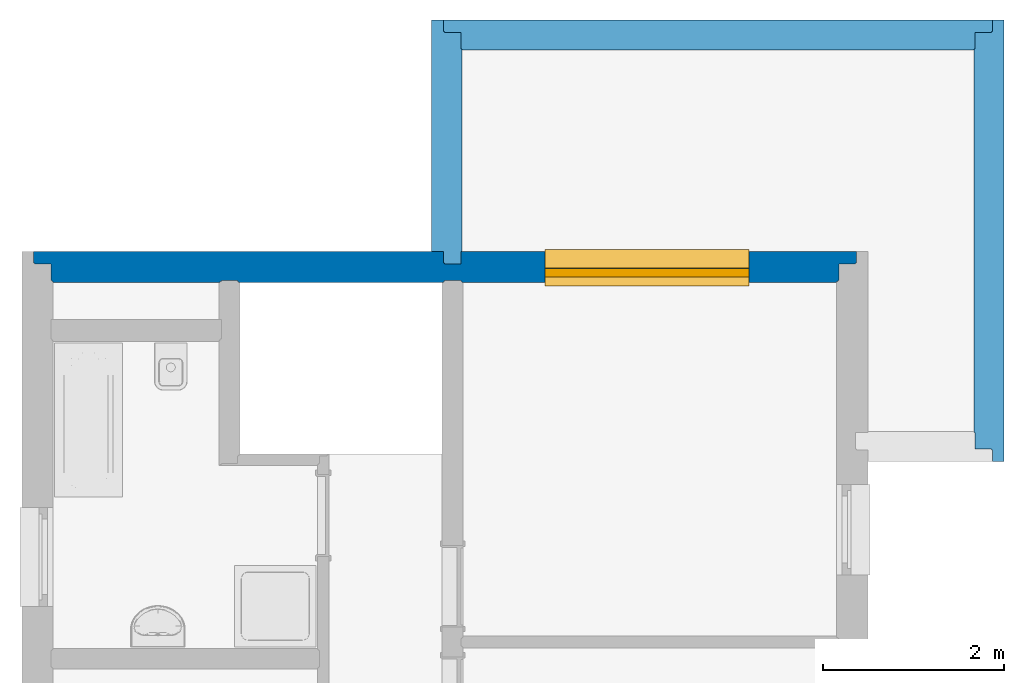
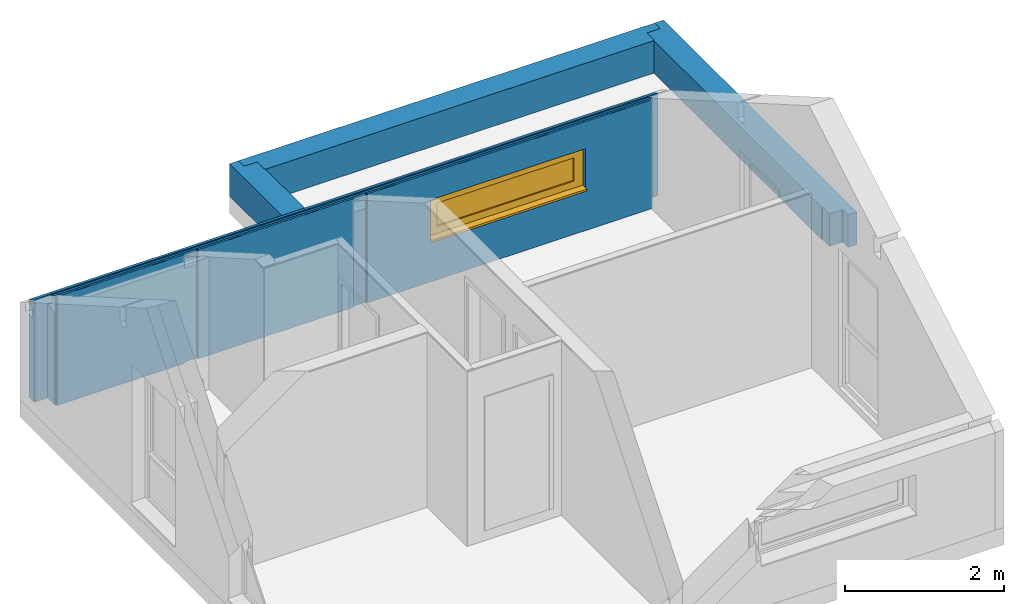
# One storey, part 7 of 7: 4 walls, 1 window, 1 opening.
"""IFC2X3 building model written with IfcOpenShell, lengths in millimetres."""

from ifc_helpers import new_model, entity, si_unit, converted_unit, derived_unit, money_unit, direction, frame, origin_with_axes, place, context, subcontext, project, spatial, open_shell, faceted_brep, surface_model, material, material_list, type_object, element, fill, save


model = new_model("IFC2X3")

# Units and contexts
model_context = context("Model", 3, precision=0.01, world=origin_with_axes(), true_north=direction((0.0, 1.0)))
body_context = subcontext(model_context, "Body", "Model", "MODEL_VIEW")
ifc_project = project(units=[si_unit("LENGTHUNIT", "METRE", prefix="MILLI"), si_unit("AREAUNIT", "SQUARE_METRE"), si_unit("VOLUMEUNIT", "CUBIC_METRE"), converted_unit("PLANEANGLEUNIT", "DEGREE", entity("IfcPlaneAngleMeasure", 0.0174532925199), si_unit("PLANEANGLEUNIT", "RADIAN"), dimensions=[0, 0, 0, 0, 0, 0, 0]), si_unit("SOLIDANGLEUNIT", "STERADIAN"), money_unit("USD"), converted_unit("TIMEUNIT", "Year", entity("IfcTimeMeasure", 31556926.0), si_unit("TIMEUNIT", "SECOND"), dimensions=[0, 0, 1, 0, 0, 0, 0]), si_unit("MASSUNIT", "GRAM", prefix="KILO"), si_unit("THERMODYNAMICTEMPERATUREUNIT", "DEGREE_CELSIUS"), si_unit("LUMINOUSINTENSITYUNIT", "LUMEN"), si_unit("ENERGYUNIT", "JOULE", prefix="MEGA"), derived_unit("THERMALCONDUCTANCEUNIT", [(si_unit("POWERUNIT", "WATT"), 1), (si_unit("LENGTHUNIT", "METRE"), -1), (si_unit("THERMODYNAMICTEMPERATUREUNIT", "KELVIN"), -1)]), derived_unit("SPECIFICHEATCAPACITYUNIT", [(si_unit("ENERGYUNIT", "JOULE"), 1), (si_unit("MASSUNIT", "GRAM", prefix="KILO"), -1), (si_unit("THERMODYNAMICTEMPERATUREUNIT", "KELVIN"), -1)]), derived_unit("MASSDENSITYUNIT", [(si_unit("MASSUNIT", "GRAM", prefix="KILO"), 1), (si_unit("VOLUMEUNIT", "CUBIC_METRE"), -1)])], contexts=[model_context])

# Site, building, storey
site_placement = place(None, origin_with_axes())
site = spatial("IfcSite", under=ifc_project, at=site_placement, Name="Lokalizacja", CompositionType="ELEMENT")
building_placement = place(site_placement, origin_with_axes())
building = spatial("IfcBuilding", under=site, at=building_placement, Name="Budynek", CompositionType="ELEMENT")
storey_placement = place(building_placement, frame((0.0, 0.0, 2954.0), z_axis=(0.0, 0.0, 1.0), x_axis=(1.0, 0.0, 0.0)))
storey = spatial("IfcBuildingStorey", under=building, at=storey_placement, Name="DG", CompositionType="ELEMENT", Elevation=2954.0)

# Wall, opening, window
ifc_material_1 = material(Name="Płyty styropianowe miękkie")
ifc_material_2 = material(Name="Płyta OSB")
ifc_material_3 = material(Name="Drewno konstrukcyjne")
ifc_material_4 = material(Name="Płyta GK")
ifc_material_list_1 = material_list([ifc_material_1, ifc_material_2, ifc_material_3, ifc_material_2, ifc_material_4])
wall_type_1 = type_object("IfcWallType", Name="002- _dan_SZ_345 345", PredefinedType="NOTDEFINED")
wall_1_placement = place(storey_placement, frame((1.15826387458e-07, 1.16706644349e-09, -160.0), z_axis=(0.0, 0.0, 1.0), x_axis=(1.0, 0.0, 0.0)))
wall_1 = element("IfcWall", 1, at=wall_1_placement, inside=storey, type_object=wall_type_1, material=ifc_material_list_1, Name="SZ2", context=body_context, shape_type="Brep", body=[
    faceted_brep([(-217.0, 345.0, 1500.0739758), (8857.00006096, 345.0, 1500.0739758), (8857.00006096, 345.0, 0.0), (4495.00027387, 345.0, 0.0), (4495.00027387, 345.0, 500.0), (4303.00027387, 345.0, 500.0), (4303.00027387, 345.0, 0.0), (-217.0, 345.0, 0.0), (8857.00006096, 217.0, 1573.97481026), (-217.0, 217.0, 1573.97481026), (8857.00006096, 217.0, 0.0), (4495.00027387, 217.0, 0.0), (4495.00027387, 217.0, 500.0), (4303.00027387, 217.0, 500.0), (4303.00027387, 217.0, 0.0), (-217.0, 217.0, 0.0)], [[[0, 1, 2, 3, 4, 5, 6, 7]], [[8, 1, 0, 9]], [[1, 8, 10, 2]], [[10, 11, 3, 2]], [[12, 4, 3, 11]], [[4, 12, 13, 5]], [[14, 6, 5, 13]], [[7, 6, 14, 15]], [[9, 0, 7, 15]], [[8, 9, 15, 14, 13, 12, 11, 10]]]),
    faceted_brep([(-205.0, 217.0, 1573.97481026), (8845.00006096, 217.0, 1573.97481026), (8845.00006096, 217.0, 0.0), (4495.00027387, 217.0, 0.0), (4495.00027387, 217.0, 500.0), (4315.00027387, 217.0, 500.0), (4315.00027387, 217.0, 0.0), (-205.0, 217.0, 0.0), (8845.00006096, 205.0, 1580.90301349), (-205.0, 205.0, 1580.90301349), (8845.00006096, 205.0, 0.0), (4495.00027387, 205.0, 0.0), (4495.00027387, 205.0, 500.0), (4315.00027387, 205.0, 500.0), (4315.00027387, 205.0, 0.0), (-205.0, 205.0, 0.0)], [[[0, 1, 2, 3, 4, 5, 6, 7]], [[8, 1, 0, 9]], [[1, 8, 10, 2]], [[2, 10, 11, 3]], [[11, 12, 4, 3]], [[12, 13, 5, 4]], [[13, 14, 6, 5]], [[15, 7, 6, 14]], [[9, 0, 7, 15]], [[8, 9, 15, 14, 13, 12, 11, 10]]]),
    faceted_brep([(-25.0, 205.0, 0.0), (-25.0, 205.0, 1441.31753233), (8665.00006096, 205.0, 1441.31753233), (8665.00006096, 205.0, 0.0), (-25.0, 25.0, 0.0), (-25.0, 25.0, 1441.31753233), (8665.00006096, 25.0, 1441.31753233), (8665.00006096, 25.0, 0.0)], [[[0, 1, 2, 3]], [[4, 5, 1, 0]], [[5, 6, 2, 1]], [[3, 2, 6, 7]], [[0, 3, 7, 4]], [[7, 6, 5, 4]]]),
    faceted_brep([(-25.0, 135.000000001, 1621.31753233), (8665.00006096, 135.000000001, 1621.31753233), (8665.00006096, 25.0, 1621.31753233), (-25.0, 25.0, 1621.31753233), (8665.00006096, 25.0, 1684.82606195), (-25.0, 25.0, 1684.82606195)], [[[0, 1, 2, 3]], [[4, 1, 0, 5]], [[1, 4, 2]], [[4, 5, 3, 2]], [[5, 0, 3]]]),
    faceted_brep([(4494.99999989, 25.0, 1684.82606195), (8653.00006096, 25.0, 1684.82606195), (8653.00006096, 25.0, 0.0), (4494.99999989, 25.0, 0.0), (8653.00006096, 13.0, 1691.75426518), (4494.99999989, 13.0, 1691.75426518), (8653.00006096, 13.0, 0.0), (4494.99999989, 13.0, 0.0)], [[[0, 1, 2, 3]], [[4, 1, 0, 5]], [[1, 4, 6, 2]], [[3, 2, 6, 7]], [[5, 0, 3, 7]], [[4, 5, 7, 6]]]),
    faceted_brep([(2034.99999989, 25.0, 1684.82606195), (4314.99999989, 25.0, 1684.82606195), (4314.99999989, 25.0, 0.0), (2034.99999989, 25.0, 0.0), (4314.99999989, 13.0, 1691.75426518), (2034.99999989, 13.0, 1691.75426518), (4314.99999989, 13.0, 0.0), (2034.99999989, 13.0, 0.0)], [[[0, 1, 2, 3]], [[4, 1, 0, 5]], [[1, 4, 6, 2]], [[3, 2, 6, 7]], [[5, 0, 3, 7]], [[4, 5, 7, 6]]]),
    faceted_brep([(-13.0, 25.0, 1684.82606195), (1854.99999989, 25.0, 1684.82606195), (1854.99999989, 25.0, 0.0), (-13.0, 25.0, 0.0), (1854.99999989, 13.0, 1691.75426518), (-13.0, 13.0, 1691.75426518), (1854.99999989, 13.0, 0.0), (-13.0, 13.0, 0.0)], [[[0, 1, 2, 3]], [[4, 1, 0, 5]], [[1, 4, 6, 2]], [[3, 2, 6, 7]], [[5, 0, 3, 7]], [[4, 5, 7, 6]]]),
    faceted_brep([(4506.99999989, 13.0, 1666.35085333), (8640.00006096, 13.0, 1666.35085333), (8640.00006096, 13.0, 0.0), (4506.99999989, 13.0, 0.0), (8640.00006096, -3.00448554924e-09, 1673.85640683), (4506.99999989, -3.00555732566e-09, 1673.85640683), (8640.00006096, 0.0, 0.0), (4506.99999989, 0.0, 0.0)], [[[0, 1, 2, 3]], [[4, 1, 0, 5]], [[1, 4, 6, 2]], [[2, 6, 7, 3]], [[5, 0, 3, 7]], [[4, 5, 7, 6]]]),
    faceted_brep([(2046.99999989, 13.0, 1666.35085333), (4302.99999989, 13.0, 1666.35085333), (4302.99999989, 13.0, 0.0), (2046.99999989, 13.0, 0.0), (4302.99999989, -3.00559926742e-09, 1673.85640683), (2046.99999989, -3.00628513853e-09, 1673.85640683), (4302.99999989, 0.0, 0.0), (2046.99999989, 0.0, 0.0)], [[[0, 1, 2, 3]], [[4, 1, 0, 5]], [[1, 4, 6, 2]], [[2, 6, 7, 3]], [[5, 0, 3, 7]], [[4, 5, 7, 6]]]),
    faceted_brep([(0.0, 13.0, 1666.35085333), (1842.99999989, 13.0, 1666.35085333), (1842.99999989, 13.0, 0.0), (0.0, 13.0, 0.0), (1842.99999989, -3.00632708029e-09, 1673.85640683), (0.0, -3.00692803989e-09, 1673.85640683), (1842.99999989, 0.0, 0.0), (0.0, 0.0, 0.0)], [[[0, 1, 2, 3]], [[4, 1, 0, 5]], [[1, 4, 6, 2]], [[2, 6, 7, 3]], [[5, 0, 3, 7]], [[4, 5, 7, 6]]]),
])
opening_placement = place(wall_1_placement, frame((6549.99999935, 0.0, 635.0), z_axis=(0.0, 0.0, 1.0), x_axis=(1.0, 0.0, 0.0)))
opening = element("IfcOpeningElement", 2, at=opening_placement, cuts=wall_1, context=body_context, shape_type="Brep", body=[
    faceted_brep([(-1125.0, 690.0, 625.0), (-1125.0, 690.0, 0.0), (-1125.0, 157.0, 0.0), (-1125.0, 157.0, 625.0), (1125.0, 690.0, 625.0), (1125.0, 690.0, 0.0), (1125.0, 157.0, 0.0), (1125.0, 157.0, 625.0)], [[[0, 1, 2, 3]], [[0, 4, 5, 1]], [[1, 5, 6, 2]], [[3, 2, 6, 7]], [[4, 0, 3, 7]], [[5, 4, 7, 6]]]),
    faceted_brep([(-1125.0, -345.0, 0.0), (-1125.0, -345.0, 625.0), (-1125.0, 157.0, 625.0), (-1125.0, 157.0, 0.0), (1125.0, -345.0, 0.0), (1125.0, -345.0, 625.0), (1125.0, 157.0, 625.0), (1125.0, 157.0, 0.0)], [[[0, 1, 2, 3]], [[0, 4, 5, 1]], [[1, 5, 6, 2]], [[3, 2, 6, 7]], [[4, 0, 3, 7]], [[5, 4, 7, 6]]]),
])
window_style = type_object("IfcWindowStyle", Name="Okno 24", ConstructionType="NOTDEFINED", OperationType="SINGLE_PANEL", ParameterTakesPrecedence=False, Sizeable=False)
window_placement = place(opening_placement, frame((1115.0, 0.0, 0.0), z_axis=(0.0, 0.0, 1.0), x_axis=(-1.0, 0.0, 0.0)))
window = element("IfcWindow", 3, at=window_placement, inside=storey, type_object=window_style, OverallHeight=625.0, OverallWidth=2250.0, context=body_context, shape_type="SurfaceModel", body=[
    surface_model("IfcShellBasedSurfaceModel", [(-10.0, -158.0, 50.0), (-10.0, -158.0, 40.0), (2240.0, -158.0, 40.0), (2240.0, -158.0, 50.0), (-10.0, -365.0, 28.9361702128), (2240.0, -365.0, 28.9361702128), (-10.0, -365.0, 8.93617021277), (2240.0, -365.0, 8.93617021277), (-10.0, -355.0, 18.9361702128), (2240.0, -355.0, 18.9361702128)], [open_shell([[[0, 1, 2, 3]], [[1, 4, 5, 2]], [[4, 6, 7, 5]], [[6, 8, 9, 7]]])]),
    faceted_brep([(2240.0, -61.0, 0.0), (2240.0, 0.0, 0.0), (2240.0, 0.0, 30.0), (2240.0, -61.0, 30.0), (-10.0, -61.0, 0.0), (-10.0, 0.0, 0.0), (-10.0, 40.0, 0.0), (2240.0, 40.0, 0.0), (2240.0, 40.0, 30.0), (-10.0, 40.0, 30.0), (-10.0, 0.0, 30.0), (-10.0, -61.0, 30.0)], [[[0, 1, 2, 3]], [[0, 4, 5, 6, 7, 1]], [[1, 7, 8, 2]], [[3, 2, 8, 9, 10, 11]], [[4, 0, 3, 11]], [[5, 4, 11, 10]], [[6, 5, 10, 9]], [[7, 6, 9, 8]]]),
    faceted_brep([(59.9, -61.0, 555.0), (-10.0, -61.0, 555.0), (-10.0, -157.0, 555.0), (60.0, -157.0, 555.0), (60.0, -121.0, 555.0), (59.9, -121.0, 555.0), (59.9, -61.0, 77.0), (-10.0, -61.0, 77.0), (-10.0, -157.0, 77.0), (60.0, -157.0, 77.0), (60.0, -121.0, 77.0), (59.9, -121.0, 77.0)], [[[0, 1, 2, 3, 4, 5]], [[6, 7, 1, 0]], [[1, 7, 8, 2]], [[2, 8, 9, 3]], [[4, 3, 9, 10]], [[10, 11, 5, 4]], [[5, 11, 6, 0]], [[11, 10, 9, 8, 7, 6]]]),
    faceted_brep([(2170.0, -121.0, 555.0), (2170.0, -157.0, 555.0), (2240.0, -157.0, 555.0), (2240.0, -61.0, 555.0), (2170.1, -61.0, 555.0), (2170.1, -121.0, 555.0), (2170.0, -121.0, 77.0), (2170.0, -157.0, 77.0), (2240.0, -157.0, 77.0), (2240.0, -61.0, 77.0), (2170.1, -61.0, 77.0), (2170.1, -121.0, 77.0)], [[[0, 1, 2, 3, 4, 5]], [[6, 7, 1, 0]], [[8, 2, 1, 7]], [[9, 3, 2, 8]], [[4, 3, 9, 10]], [[10, 11, 5, 4]], [[5, 11, 6, 0]], [[11, 10, 9, 8, 7, 6]]]),
    faceted_brep([(2170.0, -121.0, 77.0), (2170.0, -157.0, 77.0), (2240.0, -157.0, 77.0), (2240.0, -61.0, 77.0), (2170.1, -61.0, 77.0), (2170.1, -121.0, 77.0), (60.0, -121.0, 77.0), (60.0, -157.0, 77.0), (-10.0, -157.0, 77.0), (-10.0, -157.0, 0.0), (2240.0, -157.0, 0.0), (2240.0, -61.0, 0.0), (59.9, -61.0, 76.9), (2170.1, -61.0, 76.9), (-10.0, -61.0, 0.0), (-10.0, -61.0, 77.0), (59.9, -61.0, 77.0), (2170.1, -121.0, 76.9), (59.9, -121.0, 76.9), (59.9, -121.0, 77.0)], [[[0, 1, 2, 3, 4, 5]], [[6, 7, 1, 0]], [[8, 9, 10, 2, 1, 7]], [[11, 3, 2, 10]], [[12, 13, 4, 3, 11, 14, 15, 16]], [[13, 17, 5, 4]], [[5, 17, 18, 19, 6, 0]], [[19, 16, 15, 8, 7, 6]], [[15, 14, 9, 8]], [[14, 11, 10, 9]], [[12, 18, 17, 13]], [[19, 18, 12, 16]]]),
    faceted_brep([(59.9, -61.0, 555.0), (-10.0, -61.0, 555.0), (-10.0, -61.0, 625.0), (2240.0, -61.0, 625.0), (2240.0, -61.0, 555.0), (2170.1, -61.0, 555.0), (2170.1, -61.0, 555.1), (59.9, -61.0, 555.1), (59.9, -121.0, 555.0), (60.0, -121.0, 555.0), (60.0, -157.0, 555.0), (-10.0, -157.0, 555.0), (-10.0, -157.0, 625.0), (2240.0, -157.0, 625.0), (2240.0, -157.0, 555.0), (2170.1, -121.0, 555.0), (2170.0, -157.0, 555.0), (2170.0, -121.0, 555.0), (2170.1, -121.0, 555.1), (59.9, -121.0, 555.1)], [[[0, 1, 2, 3, 4, 5, 6, 7]], [[8, 9, 10, 11, 1, 0]], [[2, 1, 11, 12]], [[3, 2, 12, 13]], [[4, 3, 13, 14]], [[15, 5, 4, 14, 16, 17]], [[5, 15, 18, 6]], [[6, 18, 19, 7]], [[7, 19, 8, 0]], [[17, 9, 8, 19, 18, 15]], [[17, 16, 10, 9]], [[14, 13, 12, 11, 10, 16]]]),
    faceted_brep([(119.9, -121.0, 495.1), (119.9, -61.0, 495.1), (59.9, -61.0, 495.1), (59.9, -121.0, 495.1), (119.9, -121.0, 136.9), (119.9, -61.0, 136.9), (59.9, -61.0, 136.9), (59.9, -121.0, 136.9)], [[[0, 1, 2, 3]], [[4, 5, 1, 0]], [[1, 5, 6, 2]], [[3, 2, 6, 7]], [[0, 3, 7, 4]], [[7, 6, 5, 4]]]),
    faceted_brep([(2110.1, -121.0, 136.9), (2110.1, -61.0, 136.9), (2170.1, -61.0, 136.9), (2170.1, -121.0, 136.9), (2110.1, -121.0, 495.1), (2110.1, -61.0, 495.1), (2170.1, -61.0, 495.1), (2170.1, -121.0, 495.1)], [[[0, 1, 2, 3]], [[4, 5, 1, 0]], [[1, 5, 6, 2]], [[3, 2, 6, 7]], [[0, 3, 7, 4]], [[7, 6, 5, 4]]]),
    faceted_brep([(2170.1, -121.0, 76.9), (2170.1, -61.0, 76.9), (2170.1, -61.0, 136.9), (2170.1, -121.0, 136.9), (59.9, -121.0, 76.9), (59.9, -61.0, 76.9), (59.9, -61.0, 136.9), (119.9, -61.0, 136.9), (2110.1, -61.0, 136.9), (2110.1, -121.0, 136.9), (119.9, -121.0, 136.9), (59.9, -121.0, 136.9)], [[[0, 1, 2, 3]], [[4, 5, 1, 0]], [[1, 5, 6, 7, 8, 2]], [[3, 2, 8, 9]], [[0, 3, 9, 10, 11, 4]], [[11, 6, 5, 4]], [[10, 7, 6, 11]], [[9, 8, 7, 10]]]),
    faceted_brep([(59.9, -121.0, 555.1), (59.9, -61.0, 555.1), (59.9, -61.0, 495.1), (59.9, -121.0, 495.1), (2170.1, -121.0, 555.1), (2170.1, -61.0, 555.1), (2170.1, -61.0, 495.1), (2110.1, -61.0, 495.1), (119.9, -61.0, 495.1), (119.9, -121.0, 495.1), (2110.1, -121.0, 495.1), (2170.1, -121.0, 495.1)], [[[0, 1, 2, 3]], [[4, 5, 1, 0]], [[1, 5, 6, 7, 8, 2]], [[3, 2, 8, 9]], [[0, 3, 9, 10, 11, 4]], [[11, 6, 5, 4]], [[10, 7, 6, 11]], [[9, 8, 7, 10]]]),
    surface_model("IfcShellBasedSurfaceModel", [(119.9, -101.0, 136.9), (2110.1, -101.0, 136.9), (2110.1, -101.0, 495.1), (119.9, -101.0, 495.1)], [open_shell([[[0, 1, 2, 3]]])]),
    surface_model("IfcShellBasedSurfaceModel", [(119.9, -81.0, 136.9), (119.9, -81.0, 495.1), (2110.1, -81.0, 495.1), (2110.1, -81.0, 136.9)], [open_shell([[[0, 1, 2, 3]]])]),
])
fill(opening, window)

# Walls
ifc_material_5 = material(Name="Drewno konstrukcyjne_attyka")
ifc_material_list_2 = material_list([ifc_material_1, ifc_material_2, ifc_material_5, ifc_material_2])
wall_type_2 = type_object("IfcWallType", Name="003- _dan_SZA_332 332", PredefinedType="NOTDEFINED")
wall_2_placement = place(storey_placement, frame((4507.00027399, 1.1661398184e-09, -160.0), z_axis=(0.0, 0.0, 1.0), x_axis=(0.0, 1.0, 0.0)))
element("IfcWall", 4, at=wall_2_placement, inside=storey, type_object=wall_type_2, material=ifc_material_list_2, Name="SZ2", context=body_context, shape_type="Brep", body=[
    faceted_brep([(2894.99883487, 332.0, 500.0), (345.0, 332.0, 500.0), (345.0, 204.0, 500.0), (2894.99883487, 204.0, 500.0), (2894.99883487, 332.0, 0.0), (345.0, 332.0, 0.0), (345.0, 204.0, 0.0), (2894.99883487, 204.0, 0.0)], [[[0, 1, 2, 3]], [[4, 5, 1, 0]], [[2, 1, 5, 6]], [[3, 2, 6, 7]], [[3, 7, 4, 0]], [[7, 6, 5, 4]]]),
    faceted_brep([(2766.99883487, 204.0, 500.0), (217.0, 204.0, 500.0), (217.0, 192.0, 500.0), (2766.99883487, 192.0, 500.0), (2766.99883487, 204.0, 0.0), (217.0, 204.0, 0.0), (217.0, 192.0, 0.0), (2766.99883487, 192.0, 0.0)], [[[0, 1, 2, 3]], [[4, 5, 1, 0]], [[2, 1, 5, 6]], [[3, 2, 6, 7]], [[3, 7, 4, 0]], [[7, 6, 5, 4]]]),
    faceted_brep([(2754.99883487, 192.0, 500.0), (205.0, 192.0, 500.0), (205.0, 12.0, 500.0), (2754.99883487, 12.0, 500.0), (2754.99883487, 192.0, 0.0), (205.0, 192.0, 0.0), (205.0, 12.0, 0.0), (2754.99883487, 12.0, 0.0)], [[[0, 1, 2, 3]], [[4, 5, 1, 0]], [[2, 1, 5, 6]], [[3, 2, 6, 7]], [[3, 7, 4, 0]], [[7, 6, 5, 4]]]),
    faceted_brep([(2574.99883487, 12.0, 500.0), (345.0, 12.0, 500.0), (345.0, 0.0, 500.0), (2574.99883487, 0.0, 500.0), (2574.99883487, 12.0, 0.0), (345.0, 12.0, 0.0), (345.0, 0.0, 0.0), (2574.99883487, 0.0, 0.0)], [[[0, 1, 2, 3]], [[4, 5, 1, 0]], [[2, 1, 5, 6]], [[3, 2, 6, 7]], [[3, 7, 4, 0]], [[7, 6, 5, 4]]]),
])
wall_3_placement = place(storey_placement, frame((4507.00027399, 2562.99883487, -160.0), z_axis=(0.0, 0.0, 1.0), x_axis=(1.0, 0.0, 0.0)))
element("IfcWall", 5, at=wall_3_placement, inside=storey, type_object=wall_type_2, material=ifc_material_list_2, Name="SZ2", context=body_context, shape_type="Brep", body=[
    faceted_brep([(5849.99967724, 332.0, 500.0), (-204.0, 332.0, 500.0), (-204.0, 204.0, 500.0), (5849.99967724, 204.0, 500.0), (5849.99967724, 332.0, 0.0), (-204.0, 332.0, 0.0), (-204.0, 204.0, 0.0), (5849.99967724, 204.0, 0.0)], [[[0, 1, 2, 3]], [[4, 5, 1, 0]], [[2, 1, 5, 6]], [[3, 2, 6, 7]], [[3, 7, 4, 0]], [[7, 6, 5, 4]]]),
    faceted_brep([(5837.99967724, 204.0, 500.0), (-192.0, 204.0, 500.0), (-192.0, 192.0, 500.0), (5837.99967724, 192.0, 500.0), (5837.99967724, 204.0, 0.0), (-192.0, 204.0, 0.0), (-192.0, 192.0, 0.0), (5837.99967724, 192.0, 0.0)], [[[0, 1, 2, 3]], [[4, 5, 1, 0]], [[2, 1, 5, 6]], [[3, 2, 6, 7]], [[3, 7, 4, 0]], [[7, 6, 5, 4]]]),
    faceted_brep([(5657.99967724, 192.0, 500.0), (-12.0, 192.0, 500.0), (-12.0, 12.0, 500.0), (5657.99967724, 12.0, 500.0), (5657.99967724, 192.0, 0.0), (-12.0, 192.0, 0.0), (-12.0, 12.0, 0.0), (5657.99967724, 12.0, 0.0)], [[[0, 1, 2, 3]], [[4, 5, 1, 0]], [[2, 1, 5, 6]], [[3, 2, 6, 7]], [[3, 7, 4, 0]], [[7, 6, 5, 4]]]),
    faceted_brep([(5645.99967724, 12.0, 500.0), (0.0, 12.0, 500.0), (0.0, 0.0, 500.0), (5645.99967724, 0.0, 500.0), (5645.99967724, 12.0, 0.0), (0.0, 12.0, 0.0), (0.0, 0.0, 0.0), (5645.99967724, 0.0, 0.0)], [[[0, 1, 2, 3]], [[4, 5, 1, 0]], [[2, 1, 5, 6]], [[3, 2, 6, 7]], [[3, 7, 4, 0]], [[7, 6, 5, 4]]]),
])
ifc_material_list_3 = material_list([ifc_material_2, ifc_material_5, ifc_material_2, ifc_material_1])
wall_4_placement = place(storey_placement, frame((10152.9999512, -1643.00000896, -160.0), z_axis=(0.0, 0.0, 1.0), x_axis=(0.0, 1.0, 0.0)))
element("IfcWall", 6, at=wall_4_placement, inside=storey, type_object=wall_type_2, material=ifc_material_list_3, Name="SZ2", context=body_context, shape_type="Brep", body=[
    faceted_brep([(4217.99884383, -12.0, 0.0), (-12.0, -12.0, 0.0), (-12.0, 0.0, 0.0), (4217.99884383, 0.0, 0.0), (4217.99884383, -12.0, 500.0), (-12.0, -12.0, 500.0), (-12.0, 0.0, 500.0), (4217.99884383, 0.0, 500.0)], [[[0, 1, 2, 3]], [[4, 5, 1, 0]], [[2, 1, 5, 6]], [[3, 2, 6, 7]], [[3, 7, 4, 0]], [[7, 6, 5, 4]]]),
    faceted_brep([(4397.99884383, -192.0, 0.0), (-192.0, -192.0, 0.0), (-192.0, -12.0, 0.0), (4397.99884383, -12.0, 0.0), (4397.99884383, -192.0, 500.0), (-192.0, -192.0, 500.0), (-192.0, -12.0, 500.0), (4397.99884383, -12.0, 500.0)], [[[0, 1, 2, 3]], [[4, 5, 1, 0]], [[2, 1, 5, 6]], [[3, 2, 6, 7]], [[3, 7, 4, 0]], [[7, 6, 5, 4]]]),
    faceted_brep([(4409.99884383, -204.0, 0.0), (-204.0, -204.0, 0.0), (-204.0, -192.0, 0.0), (4409.99884383, -192.0, 0.0), (4409.99884383, -204.0, 500.0), (-204.0, -204.0, 500.0), (-204.0, -192.0, 500.0), (4409.99884383, -192.0, 500.0)], [[[0, 1, 2, 3]], [[4, 5, 1, 0]], [[2, 1, 5, 6]], [[3, 2, 6, 7]], [[3, 7, 4, 0]], [[7, 6, 5, 4]]]),
    faceted_brep([(4537.99884383, -332.0, 0.0), (-332.0, -332.0, 0.0), (-332.0, -204.0, 0.0), (4537.99884383, -204.0, 0.0), (4537.99884383, -332.0, 500.0), (-332.0, -332.0, 500.0), (-332.0, -204.0, 500.0), (4537.99884383, -204.0, 500.0)], [[[0, 1, 2, 3]], [[4, 5, 1, 0]], [[2, 1, 5, 6]], [[3, 2, 6, 7]], [[3, 7, 4, 0]], [[7, 6, 5, 4]]]),
])

save(model, "model.ifc")
